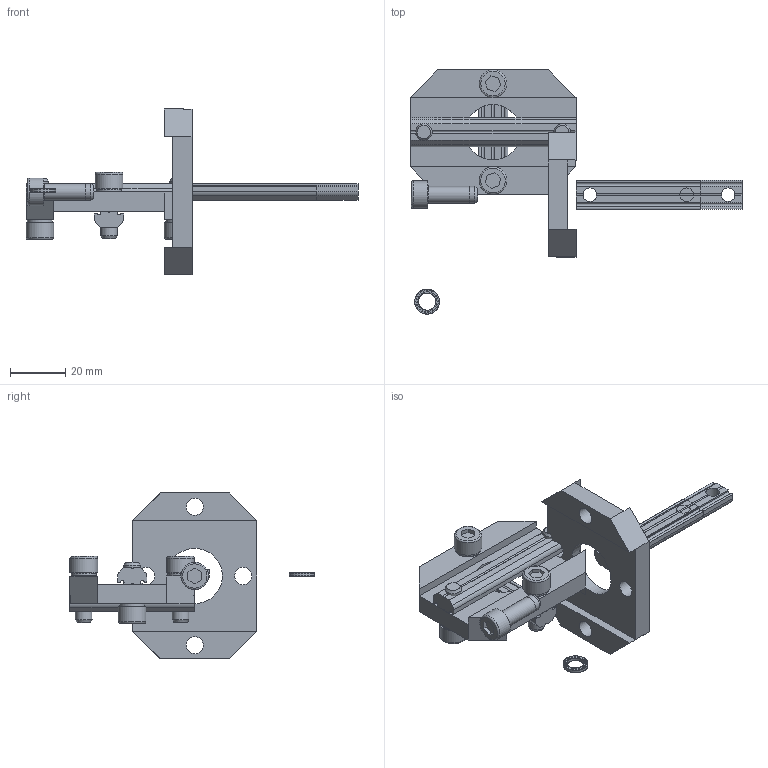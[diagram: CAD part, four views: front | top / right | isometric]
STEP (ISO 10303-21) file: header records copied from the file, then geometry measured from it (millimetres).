
FILE_DESCRIPTION( ( 'Unknown' ), '1' );
FILE_NAME( 'C:/Users/Fabrizio/Desktop/DISEGNI ACCESSORI FP SOLIDEDGE/CA.KPLJU.4025.stp', 'Unknown', ( 'Unknown' ), ( 'Unknown' ), 'PSStep 13.0', 'Unknown', ' ' );
FILE_SCHEMA( ( 'AUTOMOTIVE_DESIGN { 1 0 10303 214 1 1 1 1 }' ) );
Length unit declared in the file: millimetre
Products named in the file (7): Assem1; V-tcei M  6 x 18; V-tcei M  6 x 16; R.6.SCH; CA.GWP.6.50; CA.GWP.6.35; KPLJU.4025
Bounding box: 120 x 88.25 x 60 mm (x, y, z)
Volume: 41671.3 mm3; surface area: 26247.4 mm2
Topology: 12 solids, 17 shells, 1214 faces, 3556 edges, 2357 vertices
Faces by surface type: plane 1108, cylinder 88, torus 12, cone 6
Full cylindrical faces by diameter (mm): 4.917 x8, 6 x6, 6.2 x13, 9 x5, 10 x6, 20 x2
Entity records: 11836 total; most frequent: CARTESIAN_POINT 1875, DIRECTION 1720, ORIENTED_EDGE 1692, EDGE_CURVE 846, AXIS2_PLACEMENT_3D 577, VERTEX_POINT 572, LINE 566, VECTOR 566
